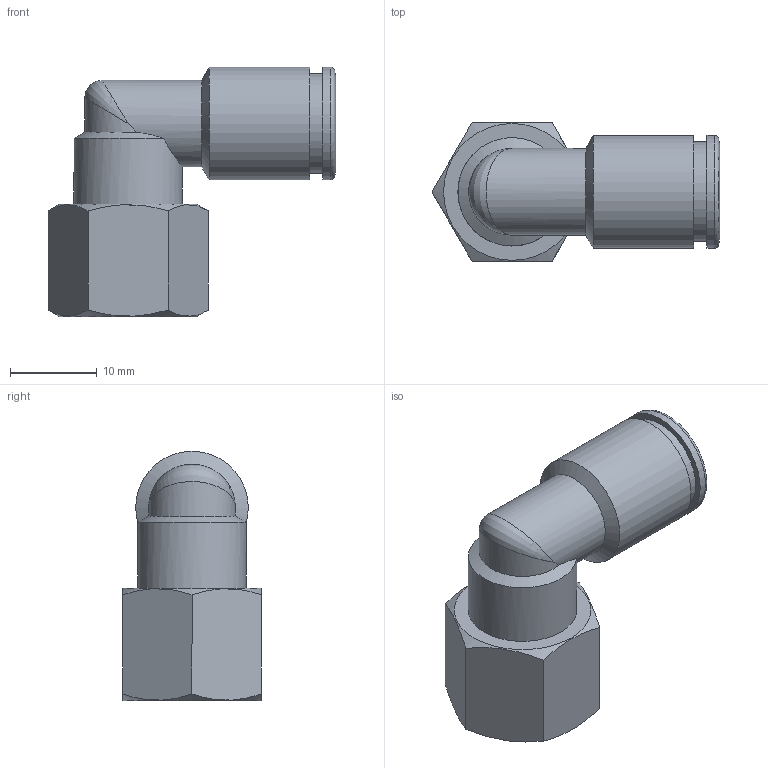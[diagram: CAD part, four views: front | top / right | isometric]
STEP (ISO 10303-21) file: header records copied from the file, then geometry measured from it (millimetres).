
FILE_DESCRIPTION(('Bauteilbeschreibung','HiCAD-Model','HiCAD-STEP-TRANSLATION','Bauteilbeschreibung'),'2;1');
FILE_NAME('B:/ABGLEICH/ZEICHNUNGEN/STEP FÜR INTERNET/STEP/IPSO 022-F/202806_IPSO_022-F_8_1-4.STP','2012-02-10T09:50:55+00:00',('Konstrukteur'),('Konstrukteur Firma GmbH'),' HiCAD neXt 2008, Step 3.1.1401.2J ','HiCAD neXt 2008','confidential');
FILE_SCHEMA(('AUTOMOTIVE_DESIGN { 1 2 10303 214 0 1 1 1 }'));
Length unit declared in the file: millimetre
Products named in the file (6): A02806_IPSO_022_F_8_1_4; DR8_1_NEU; R202205_N1_N2; A14623_N2; A146230N2; G 1_4
Assembly tree (5 placements, depth 3):
  A02806_IPSO_022_F_8_1_4
    DR8_1_NEU
    R202205_N1_N2
    A14623_N2
    A146230N2
      G 1_4
Bounding box: 33.24 x 16 x 28.8 mm (x, y, z)
Volume: 3577.4 mm3; surface area: 5399.1 mm2
Topology: 4 solids, 4 shells, 63 faces, 138 edges, 85 vertices
Faces by surface type: cylinder 22, cone 20, plane 19, torus 1, bspline 1
Full cylindrical faces by diameter (mm): 5.5 x1, 7 x1, 8.1 x1, 8.2 x1, 9 x2, 10 x1, 10.1 x3, 11 x1, 11.445 x2, 11.5 x1, 11.6 x1, 12.5 x1, 13 x2, 13.157 x2
Entity records: 3336 total; most frequent: CARTESIAN_POINT 1648, DIRECTION 262, ORIENTED_EDGE 176, AXIS2_PLACEMENT_3D 127, EDGE_LOOP 113, EDGE_CURVE 88, COLOUR_RGB 79, PRESENTATION_STYLE_ASSIGNMENT 79
